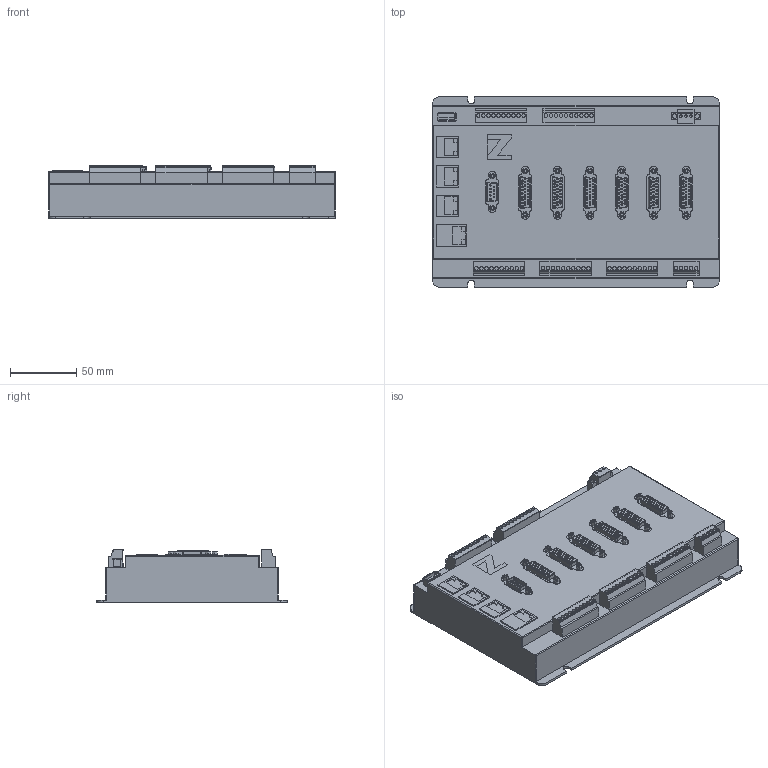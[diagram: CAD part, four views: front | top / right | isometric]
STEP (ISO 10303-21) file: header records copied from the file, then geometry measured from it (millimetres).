
FILE_DESCRIPTION(/* description */ (''),/* implementation_level */ '2;1');
FILE_NAME(/* name */ 'ZMC460N模型.step',/* time_stamp */ '2020-05-20T09:05:12+08:00',/* author */ (''),/* organization */ (''),/* preprocessor_version */ 'ST-DEVELOPER v16',/* originating_system */ 'SIEMENS PLM Software NX 10.0',/* authorisation */ '');
FILE_SCHEMA (('AUTOMOTIVE_DESIGN { 1 0 10303 214 3 1 1 1 }'));
Length unit declared in the file: millimetre
Products named in the file (1): ZMC460N模型
Bounding box: 216 x 143.75 x 39.9 mm (x, y, z)
Volume: 974192.4 mm3; surface area: 106973 mm2
Topology: 18 solids, 18 shells, 1913 faces, 4229 edges, 2550 vertices
Faces by surface type: plane 728, cylinder 697, torus 338, sphere 86, extrusion 39, bspline 25
Full cylindrical faces by diameter (mm): 0.99 x156, 1 x165, 2.1 x14, 2.7 x55
Entity records: 53038 total; most frequent: CARTESIAN_POINT 10072, DIRECTION 8776, ORIENTED_EDGE 6726, AXIS2_PLACEMENT_3D 3607, EDGE_CURVE 3363, EDGE_LOOP 3236, VERTEX_POINT 2495, FACE_BOUND 2105
